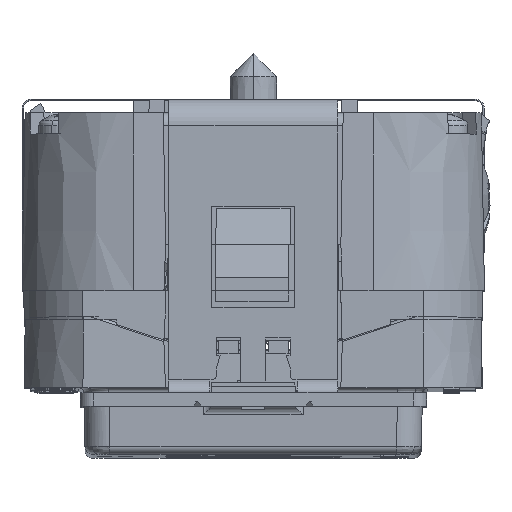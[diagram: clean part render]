
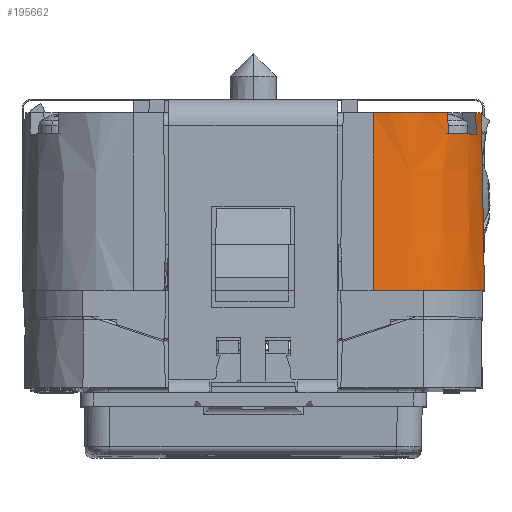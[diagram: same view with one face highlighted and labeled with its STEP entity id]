
A CAD part, top view. The second image highlights one B-rep face of the part: STEP entity #195662.
In plain terms, the highlighted conical face has half-angle 1 degrees and reference radius 10.706 mm.
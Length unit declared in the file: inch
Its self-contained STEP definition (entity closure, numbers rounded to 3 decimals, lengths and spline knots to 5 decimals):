
#15609 = CARTESIAN_POINT ( 'NONE',  ( -0.2459, 0.16626, 2.48971 ) ) ;
#15615 = VERTEX_POINT ( 'NONE', #266039 ) ;
#19272 = CIRCLE ( 'NONE', #277021, 0.4229 ) ;
#19528 = CARTESIAN_POINT ( 'NONE',  ( -0.35089, 0.11293, 2.6406 ) ) ;
#20859 = DIRECTION ( 'NONE',  ( 0., 0., -1. ) ) ;
#26336 = EDGE_CURVE ( 'NONE', #132492, #162729, #342837, .T. ) ;
#28719 = VERTEX_POINT ( 'NONE', #166835 ) ;
#41538 = DIRECTION ( 'NONE',  ( 0., 0., -1. ) ) ;
#47327 = AXIS2_PLACEMENT_3D ( 'NONE', #321007, #161454, #107129 ) ;
#48859 = B_SPLINE_CURVE_WITH_KNOTS ( 'NONE', 3,
 ( #190369, #213379, #76438, #157165 ),
 .UNSPECIFIED., .F., .F.,
 ( 4, 4 ),
 ( 0., 0.01712 ),
 .UNSPECIFIED. ) ;
#50705 = CIRCLE ( 'NONE', #241411, 0.4215 ) ;
#56203 = CARTESIAN_POINT ( 'NONE',  ( -0.24574, 0.1396, 2.49053 ) ) ;
#57737 = VERTEX_POINT ( 'NONE', #277856 ) ;
#58982 = VERTEX_POINT ( 'NONE', #250960 ) ;
#66622 = FACE_OUTER_BOUND ( 'NONE', #108569, .T. ) ;
#68519 = AXIS2_PLACEMENT_3D ( 'NONE', #331518, #285868, #20859 ) ;
#70010 = CARTESIAN_POINT ( 'NONE',  ( -0.35089, 0.11293, 2.6406 ) ) ;
#73534 = ORIENTED_EDGE ( 'NONE', *, *, #263654, .F. ) ;
#74400 = EDGE_CURVE ( 'NONE', #289740, #58982, #19272, .T. ) ;
#76395 = CARTESIAN_POINT ( 'NONE',  ( -0.63562, 0.19293, 2.32793 ) ) ;
#76438 = CARTESIAN_POINT ( 'NONE',  ( -0.21778, -0.2564, 2.42663 ) ) ;
#79598 = CIRCLE ( 'NONE', #129992, 0.4215 ) ;
#85953 = EDGE_CURVE ( 'NONE', #126310, #15615, #48859, .T. ) ;
#87114 = ORIENTED_EDGE ( 'NONE', *, *, #187315, .F. ) ;
#96399 = EDGE_CURVE ( 'NONE', #58982, #28719, #345117, .T. ) ;
#103265 = ORIENTED_EDGE ( 'NONE', *, *, #96399, .F. ) ;
#107129 = DIRECTION ( 'NONE',  ( 0., 0., -1. ) ) ;
#108569 = EDGE_LOOP ( 'NONE', ( #103265, #279099, #340675, #87114, #237036, #73534, #244523, #284447 ) ) ;
#116396 = EDGE_CURVE ( 'NONE', #28719, #126310, #79598, .T. ) ;
#126310 = VERTEX_POINT ( 'NONE', #322307 ) ;
#129992 = AXIS2_PLACEMENT_3D ( 'NONE', #183455, #311662, #41538 ) ;
#132492 = VERTEX_POINT ( 'NONE', #343442 ) ;
#142070 = CARTESIAN_POINT ( 'NONE',  ( -0.24607, 0.19293, 2.48889 ) ) ;
#153549 = DIRECTION ( 'NONE',  ( 0., 1., 0. ) ) ;
#156882 = CARTESIAN_POINT ( 'NONE',  ( -0.63562, 0.19293, 2.74943 ) ) ;
#157165 = CARTESIAN_POINT ( 'NONE',  ( -0.21386, -0.48107, 2.42709 ) ) ;
#161454 = DIRECTION ( 'NONE',  ( 0., -1., 0. ) ) ;
#162729 = VERTEX_POINT ( 'NONE', #169331 ) ;
#163938 = CONICAL_SURFACE ( 'NONE', #68519, 0.4215, 0.017 ) ;
#166835 = CARTESIAN_POINT ( 'NONE',  ( -0.24607, 0.19293, 2.48889 ) ) ;
#169331 = CARTESIAN_POINT ( 'NONE',  ( -0.63562, 0.19293, 2.74943 ) ) ;
#179198 = CARTESIAN_POINT ( 'NONE',  ( -0.35156, 0.1396, 2.64059 ) ) ;
#182782 = VECTOR ( 'NONE', #241116, 39.37008 ) ;
#183455 = CARTESIAN_POINT ( 'NONE',  ( -0.63562, 0.19293, 2.32793 ) ) ;
#187315 = EDGE_CURVE ( 'NONE', #162729, #57737, #50705, .T. ) ;
#190369 = CARTESIAN_POINT ( 'NONE',  ( -0.22562, 0.19293, 2.42571 ) ) ;
#195662 = ADVANCED_FACE ( 'NONE', ( #66622 ), #163938, .T. ) ;
#198578 = CIRCLE ( 'NONE', #47327, 0.43326 ) ;
#209864 = DIRECTION ( 'NONE',  ( 0., 0., -1. ) ) ;
#210934 = EDGE_CURVE ( 'NONE', #57737, #289740, #262643, .T. ) ;
#213379 = CARTESIAN_POINT ( 'NONE',  ( -0.2217, -0.03174, 2.42617 ) ) ;
#237036 = ORIENTED_EDGE ( 'NONE', *, *, #26336, .F. ) ;
#241116 = DIRECTION ( 'NONE',  ( 0., 1., -0.017 ) ) ;
#241411 = AXIS2_PLACEMENT_3D ( 'NONE', #76395, #343063, #209864 ) ;
#244523 = ORIENTED_EDGE ( 'NONE', *, *, #85953, .F. ) ;
#250960 = CARTESIAN_POINT ( 'NONE',  ( -0.24558, 0.11293, 2.49135 ) ) ;
#262643 = B_SPLINE_CURVE_WITH_KNOTS ( 'NONE', 3,
 ( #337098, #340604, #179198, #19528 ),
 .UNSPECIFIED., .F., .F.,
 ( 4, 4 ),
 ( 0.01225, 0.01428 ),
 .UNSPECIFIED. ) ;
#263654 = EDGE_CURVE ( 'NONE', #15615, #132492, #198578, .T. ) ;
#266039 = CARTESIAN_POINT ( 'NONE',  ( -0.21386, -0.48107, 2.42709 ) ) ;
#267519 = DIRECTION ( 'NONE',  ( 0., 0., -1. ) ) ;
#277021 = AXIS2_PLACEMENT_3D ( 'NONE', #341263, #153549, #267519 ) ;
#277856 = CARTESIAN_POINT ( 'NONE',  ( -0.35291, 0.19293, 2.64055 ) ) ;
#279099 = ORIENTED_EDGE ( 'NONE', *, *, #74400, .F. ) ;
#284447 = ORIENTED_EDGE ( 'NONE', *, *, #116396, .F. ) ;
#285868 = DIRECTION ( 'NONE',  ( 0., -1., 0. ) ) ;
#289740 = VERTEX_POINT ( 'NONE', #70010 ) ;
#296543 = CARTESIAN_POINT ( 'NONE',  ( -0.24558, 0.11293, 2.49135 ) ) ;
#311662 = DIRECTION ( 'NONE',  ( 0., 1., 0. ) ) ;
#321007 = CARTESIAN_POINT ( 'NONE',  ( -0.63562, -0.48107, 2.32793 ) ) ;
#322307 = CARTESIAN_POINT ( 'NONE',  ( -0.22562, 0.19293, 2.42571 ) ) ;
#331518 = CARTESIAN_POINT ( 'NONE',  ( -0.63562, 0.19293, 2.32793 ) ) ;
#337098 = CARTESIAN_POINT ( 'NONE',  ( -0.35291, 0.19293, 2.64055 ) ) ;
#340604 = CARTESIAN_POINT ( 'NONE',  ( -0.35223, 0.16626, 2.64057 ) ) ;
#340675 = ORIENTED_EDGE ( 'NONE', *, *, #210934, .F. ) ;
#341263 = CARTESIAN_POINT ( 'NONE',  ( -0.63562, 0.11293, 2.32793 ) ) ;
#342837 = LINE ( 'NONE', #156882, #182782 ) ;
#343063 = DIRECTION ( 'NONE',  ( 0., 1., 0. ) ) ;
#343442 = CARTESIAN_POINT ( 'NONE',  ( -0.63562, -0.48107, 2.76119 ) ) ;
#345117 = B_SPLINE_CURVE_WITH_KNOTS ( 'NONE', 3,
 ( #296543, #56203, #15609, #142070 ),
 .UNSPECIFIED., .F., .F.,
 ( 4, 4 ),
 ( 0.01226, 0.01429 ),
 .UNSPECIFIED. ) ;
